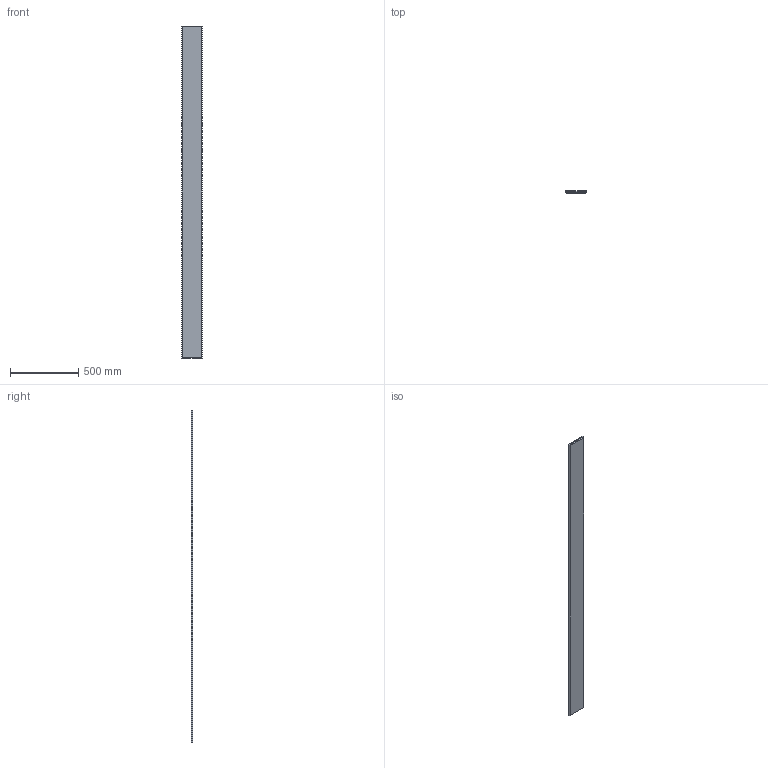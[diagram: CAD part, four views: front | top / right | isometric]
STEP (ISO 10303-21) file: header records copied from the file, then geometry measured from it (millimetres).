
FILE_DESCRIPTION(/* description */ (''),/* implementation_level */ '2;1');
FILE_NAME(/* name */ 'PET PLANQ_Beveled_6x96',/* time_stamp */ '2024-10-31T13:55:34-05:00',/* author */ (''),/* organization */ (''),/* preprocessor_version */ 'ST-DEVELOPER v19.2',/* originating_system */ 'Rhino 8.4',/* authorisation */ '');
FILE_SCHEMA (('CONFIG_CONTROL_DESIGN'));
Length unit declared in the file: inch
Products named in the file (1): Document
Bounding box: 152.4 x 12.7 x 2438.4 mm (x, y, z)
Volume: 4615348.3 mm3; surface area: 789689.6 mm2
Topology: 1 solids, 1 shells, 10 faces, 20 edges, 12 vertices
Faces by surface type: plane 10
Entity records: 310 total; most frequent: CARTESIAN_POINT 64, ORIENTED_EDGE 40, EDGE_CURVE 20, B_SPLINE_CURVE_WITH_KNOTS 20, DIRECTION 14, VERTEX_POINT 12, AXIS2_PLACEMENT_3D 12, ADVANCED_FACE 10
